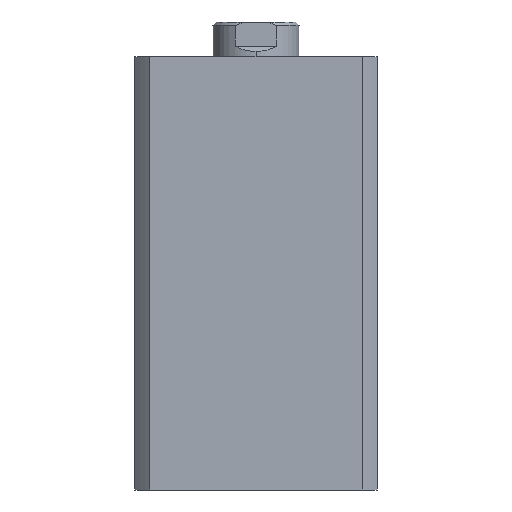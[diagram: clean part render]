
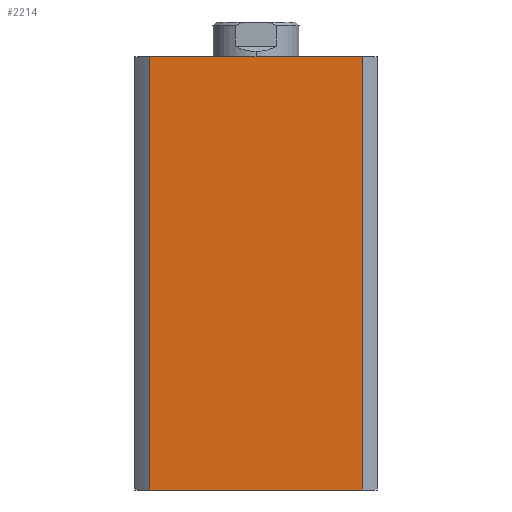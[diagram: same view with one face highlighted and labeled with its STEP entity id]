
A CAD part, left-side view. The second image highlights one B-rep face of the part: STEP entity #2214.
In plain terms, the highlighted planar face has unit normal (-1, 0, 0).
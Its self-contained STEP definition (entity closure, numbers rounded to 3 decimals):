
#380 = CARTESIAN_POINT ( 'NONE',  ( -35., -30.615, 0. ) ) ;
#468 = VERTEX_POINT ( 'NONE', #853 ) ;
#534 = VERTEX_POINT ( 'NONE', #380 ) ;
#578 = ORIENTED_EDGE ( 'NONE', *, *, #1770, .T. ) ;
#597 = ORIENTED_EDGE ( 'NONE', *, *, #1773, .F. ) ;
#600 = ORIENTED_EDGE ( 'NONE', *, *, #1738, .T. ) ;
#601 = ORIENTED_EDGE ( 'NONE', *, *, #1772, .F. ) ;
#800 = FACE_OUTER_BOUND ( 'NONE', #4162, .T. ) ;
#853 = CARTESIAN_POINT ( 'NONE',  ( -35., 30.615, 0. ) ) ;
#1244 = CARTESIAN_POINT ( 'NONE',  ( -35., 0., 125. ) ) ;
#1249 = PLANE ( 'NONE',  #4492 ) ;
#1252 = DIRECTION ( 'NONE',  ( 1., 0., 0. ) ) ;
#1253 = DIRECTION ( 'NONE',  ( 0., 1., 0. ) ) ;
#1738 = EDGE_CURVE ( 'NONE', #468, #534, #3985, .T. ) ;
#1770 = EDGE_CURVE ( 'NONE', #2089, #468, #3946, .T. ) ;
#1772 = EDGE_CURVE ( 'NONE', #2090, #534, #3942, .T. ) ;
#1773 = EDGE_CURVE ( 'NONE', #2089, #2090, #3941, .T. ) ;
#2089 = VERTEX_POINT ( 'NONE', #2747 ) ;
#2090 = VERTEX_POINT ( 'NONE', #2748 ) ;
#2214 = ADVANCED_FACE ( 'NONE', ( #800 ), #1249, .F. ) ;
#2747 = CARTESIAN_POINT ( 'NONE',  ( -35., 30.615, 125. ) ) ;
#2748 = CARTESIAN_POINT ( 'NONE',  ( -35., -30.615, 125. ) ) ;
#3565 = DIRECTION ( 'NONE',  ( 0., -1., 0. ) ) ;
#3566 = CARTESIAN_POINT ( 'NONE',  ( -35., 0., 0. ) ) ;
#3715 = CARTESIAN_POINT ( 'NONE',  ( -35., -30.615, 125. ) ) ;
#3716 = DIRECTION ( 'NONE',  ( 0., 0., -1. ) ) ;
#3723 = CARTESIAN_POINT ( 'NONE',  ( -35., 30.615, 125. ) ) ;
#3724 = DIRECTION ( 'NONE',  ( 0., 0., -1. ) ) ;
#3730 = CARTESIAN_POINT ( 'NONE',  ( -35., 0., 125. ) ) ;
#3731 = DIRECTION ( 'NONE',  ( 0., -1., 0. ) ) ;
#3938 = VECTOR ( 'NONE', #3731, 1000. ) ;
#3940 = VECTOR ( 'NONE', #3716, 1000. ) ;
#3941 = LINE ( 'NONE', #3730, #3938 ) ;
#3942 = LINE ( 'NONE', #3715, #3940 ) ;
#3943 = VECTOR ( 'NONE', #3724, 1000. ) ;
#3946 = LINE ( 'NONE', #3723, #3943 ) ;
#3984 = VECTOR ( 'NONE', #3565, 1000. ) ;
#3985 = LINE ( 'NONE', #3566, #3984 ) ;
#4162 = EDGE_LOOP ( 'NONE', ( #600, #601, #597, #578 ) ) ;
#4492 = AXIS2_PLACEMENT_3D ( 'NONE', #1244, #1252, #1253 ) ;
